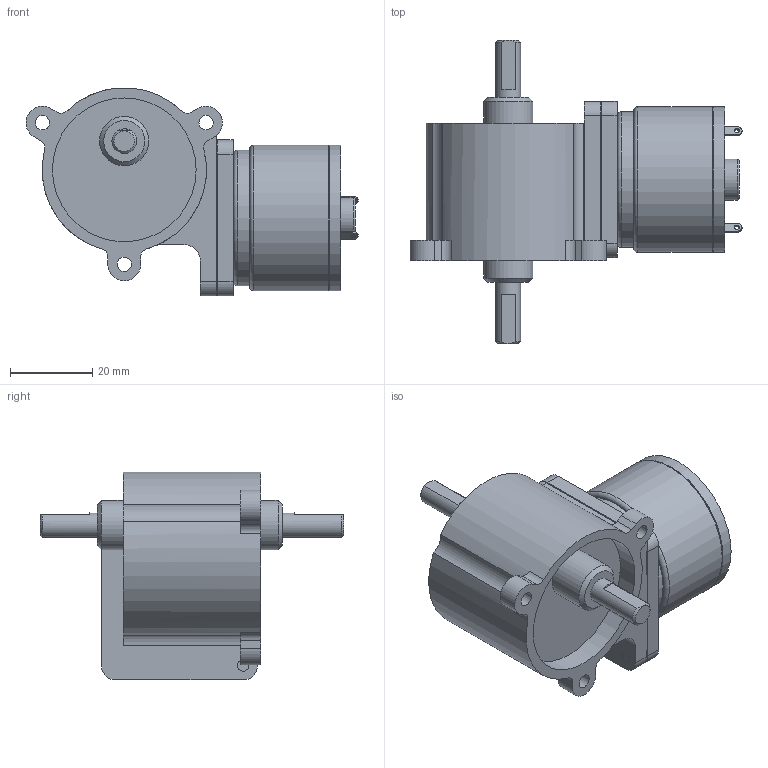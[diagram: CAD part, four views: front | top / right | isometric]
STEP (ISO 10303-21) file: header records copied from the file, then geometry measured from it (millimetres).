
FILE_DESCRIPTION((''),'2;1');
FILE_NAME('C:\Documents and Settings\SSEGAWA\デスクトップ\TP-3526A-KWR.STP','2013-07-11T09:59:46',('SSEGAWA'),(''),'Autodesk Inventor 2010','Autodesk Inventor 2010','');
FILE_SCHEMA(('CONFIG_CONTROL_DESIGN'));
Length unit declared in the file: millimetre
Products named in the file (3): tp_3526abcj_kwr; kwr; tp_3526a,b,c,j
Assembly tree (2 placements, depth 2):
  tp_3526abcj_kwr
    kwr
    tp_3526a,b,c,j
Bounding box: 80.82 x 73.9 x 50.63 mm (x, y, z)
Volume: 78014.2 mm3; surface area: 16827.9 mm2
Topology: 2 solids, 2 shells, 126 faces, 302 edges, 201 vertices
Faces by surface type: plane 55, cylinder 44, bspline 20, cone 4, torus 3
Full cylindrical faces by diameter (mm): 2 x1, 4 x1, 6 x2, 10 x3, 12 x2, 33 x1, 35 x2, 35.4 x2
Entity records: 3730 total; most frequent: CARTESIAN_POINT 888, DIRECTION 599, ORIENTED_EDGE 504, EDGE_CURVE 252, AXIS2_PLACEMENT_3D 240, EDGE_LOOP 192, VERTEX_POINT 186, CIRCLE 129
